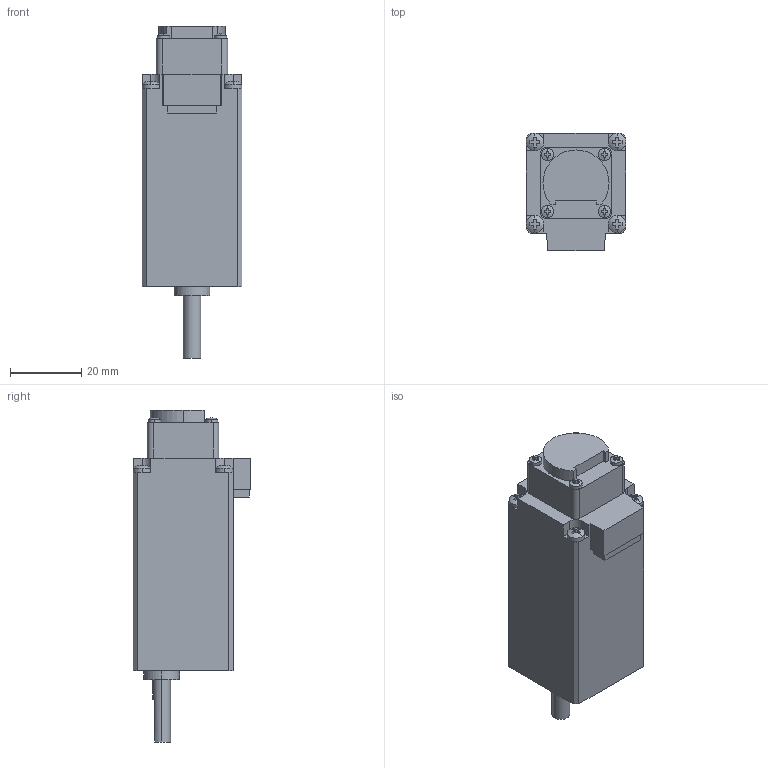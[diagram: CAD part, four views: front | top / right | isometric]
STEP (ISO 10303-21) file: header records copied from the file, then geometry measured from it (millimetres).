
FILE_DESCRIPTION (( 'STEP AP203' ), '1' );
FILE_NAME ('B1582.STEP', '2023-08-31T05:38:22', ( '' ), ( '' ), 'SwSTEP 2.0', 'SolidWorks 2020', '' );
FILE_SCHEMA (( 'CONFIG_CONTROL_DESIGN' ));
Length unit declared in the file: millimetre
Products named in the file (1): B1582
Bounding box: 28 x 33 x 93 mm (x, y, z)
Volume: 51851.5 mm3; surface area: 10401.1 mm2
Topology: 1 solids, 1 shells, 244 faces, 648 edges, 418 vertices
Faces by surface type: plane 165, cylinder 55, sphere 16, cone 8
Entity records: 7651 total; most frequent: DIRECTION 1388, CARTESIAN_POINT 1303, ORIENTED_EDGE 1280, EDGE_CURVE 640, AXIS2_PLACEMENT_3D 503, VERTEX_POINT 418, LINE 382, VECTOR 382
